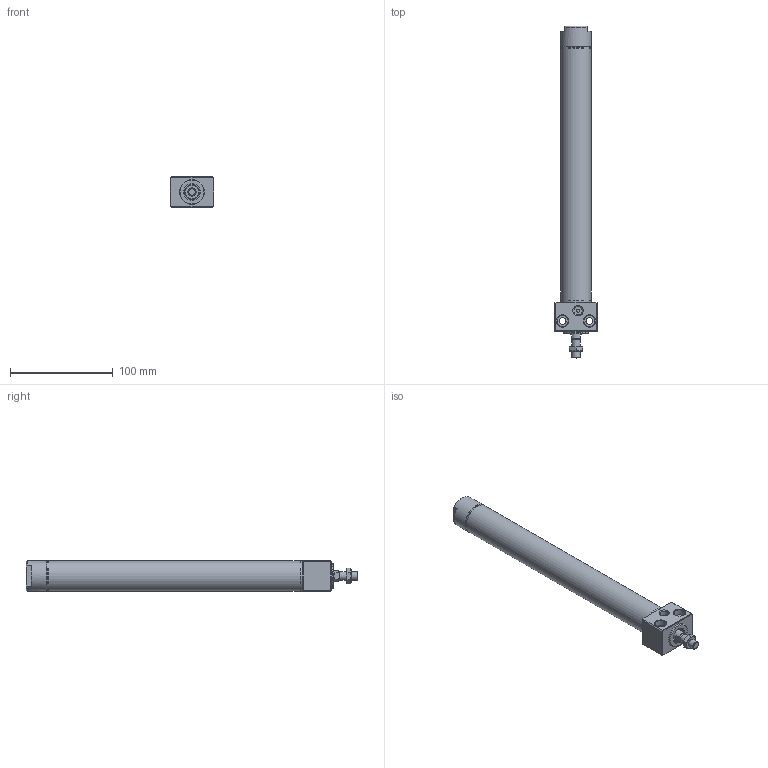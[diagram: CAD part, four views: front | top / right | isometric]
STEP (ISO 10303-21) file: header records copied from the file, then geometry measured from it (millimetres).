
FILE_DESCRIPTION((''),'2;1');
FILE_NAME('I:\3D電子目錄\氣缸\DBS\DBS\DBS25x200.stp','2007-10-08T08:35:10',('Administrator'),(''),'Autodesk Inventor 2008','Autodesk Inventor 2008','');
FILE_SCHEMA(('AUTOMOTIVE_DESIGN { 1 0 10303 214 1 1 1 1 }'));
Length unit declared in the file: millimetre
Products named in the file (1): DBS25x200
Bounding box: 42 x 323.6 x 30 mm (x, y, z)
Volume: 107651.9 mm3; surface area: 62144.1 mm2
Topology: 6 solids, 6 shells, 163 faces, 317 edges, 192 vertices
Faces by surface type: plane 72, cone 41, cylinder 35, bspline 12, torus 3
Full cylindrical faces by diameter (mm): 3 x1, 5 x1, 6 x1, 7 x1, 8 x2, 10 x1, 10.5 x1, 12 x1, 13 x2, 14 x1, 15.5 x2, 16 x2, 17 x1, 18 x2, 23 x2, 24 x1, 25 x1, 25.5 x2, 27.2 x6, 30 x4
Entity records: 3973 total; most frequent: CARTESIAN_POINT 911, DIRECTION 644, ORIENTED_EDGE 484, AXIS2_PLACEMENT_3D 284, EDGE_LOOP 278, EDGE_CURVE 242, VERTEX_POINT 188, FACE_OUTER_BOUND 163
